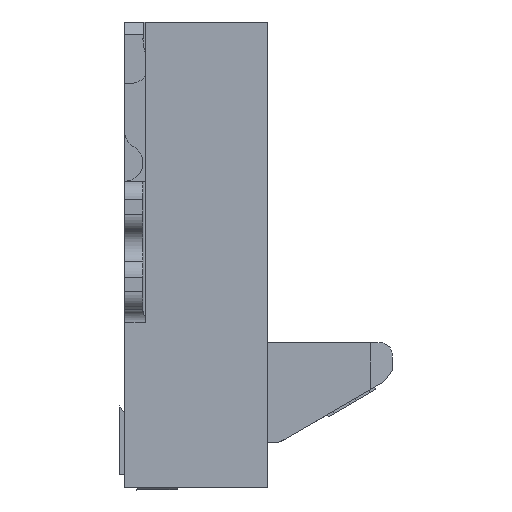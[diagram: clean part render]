
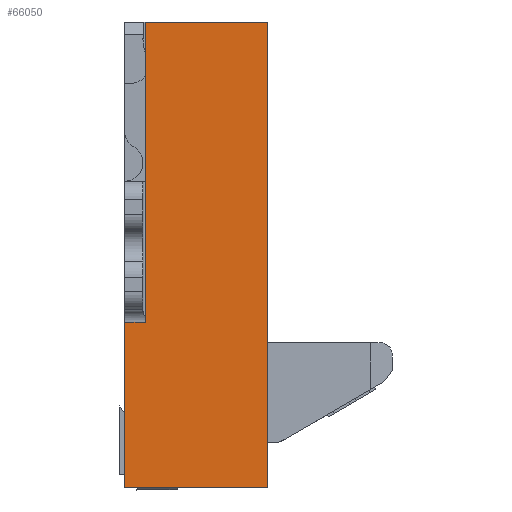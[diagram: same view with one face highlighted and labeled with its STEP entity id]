
A CAD part, left-side view. The second image highlights one B-rep face of the part: STEP entity #66050.
In plain terms, the highlighted planar face has unit normal (-1, 0, 0).
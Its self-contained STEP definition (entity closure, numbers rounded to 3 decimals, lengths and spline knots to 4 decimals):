
#3125 = DIRECTION ( 'NONE',  ( 0., 0., -1. ) ) ;
#3555 = ORIENTED_EDGE ( 'NONE', *, *, #58031, .T. ) ;
#3692 = LINE ( 'NONE', #107807, #34791 ) ;
#6212 = VERTEX_POINT ( 'NONE', #61235 ) ;
#7045 = VECTOR ( 'NONE', #9285, 1000. ) ;
#9285 = DIRECTION ( 'NONE',  ( 0., 0., -1. ) ) ;
#10649 = LINE ( 'NONE', #89723, #103743 ) ;
#13429 = FACE_OUTER_BOUND ( 'NONE', #20247, .T. ) ;
#20247 = EDGE_LOOP ( 'NONE', ( #103835, #20702, #72308, #70410, #3555, #40684 ) ) ;
#20702 = ORIENTED_EDGE ( 'NONE', *, *, #47102, .F. ) ;
#22025 = CARTESIAN_POINT ( 'NONE',  ( 1., 1.31, -1.2938 ) ) ;
#22802 = CARTESIAN_POINT ( 'NONE',  ( 1., 1.48, -5.0938 ) ) ;
#24127 = LINE ( 'NONE', #66770, #62164 ) ;
#26540 = EDGE_CURVE ( 'NONE', #83996, #85559, #55316, .T. ) ;
#29972 = DIRECTION ( 'NONE',  ( 1., 0., 0. ) ) ;
#31121 = EDGE_CURVE ( 'NONE', #6212, #85559, #10649, .T. ) ;
#34791 = VECTOR ( 'NONE', #3125, 1000. ) ;
#36386 = VERTEX_POINT ( 'NONE', #22025 ) ;
#38180 = CARTESIAN_POINT ( 'NONE',  ( 1., 0.31, -1.2938 ) ) ;
#38522 = VERTEX_POINT ( 'NONE', #110874 ) ;
#40229 = EDGE_CURVE ( 'NONE', #97631, #38522, #3692, .T. ) ;
#40684 = ORIENTED_EDGE ( 'NONE', *, *, #31121, .T. ) ;
#40751 = CARTESIAN_POINT ( 'NONE',  ( 1., 0.895, -3.1938 ) ) ;
#41335 = VECTOR ( 'NONE', #72957, 1000. ) ;
#42898 = LINE ( 'NONE', #77561, #7045 ) ;
#47102 = EDGE_CURVE ( 'NONE', #38522, #83996, #24127, .T. ) ;
#47910 = DIRECTION ( 'NONE',  ( 0., 0., 1. ) ) ;
#54196 = CARTESIAN_POINT ( 'NONE',  ( 1., 1.48, -5.0938 ) ) ;
#55316 = LINE ( 'NONE', #54196, #86127 ) ;
#58031 = EDGE_CURVE ( 'NONE', #36386, #6212, #42898, .T. ) ;
#61235 = CARTESIAN_POINT ( 'NONE',  ( 1., 1.31, -3.7438 ) ) ;
#62164 = VECTOR ( 'NONE', #110015, 1000. ) ;
#66050 = ADVANCED_FACE ( 'NONE', ( #13429 ), #74297, .F. ) ;
#66770 = CARTESIAN_POINT ( 'NONE',  ( 1., 0.31, -5.0938 ) ) ;
#70410 = ORIENTED_EDGE ( 'NONE', *, *, #77482, .F. ) ;
#72308 = ORIENTED_EDGE ( 'NONE', *, *, #40229, .F. ) ;
#72957 = DIRECTION ( 'NONE',  ( 0., -1., 0. ) ) ;
#74049 = CARTESIAN_POINT ( 'NONE',  ( 1., 1.31, -1.2938 ) ) ;
#74297 = PLANE ( 'NONE',  #80056 ) ;
#77482 = EDGE_CURVE ( 'NONE', #36386, #97631, #89468, .T. ) ;
#77561 = CARTESIAN_POINT ( 'NONE',  ( 1., 1.31, -1.2938 ) ) ;
#80056 = AXIS2_PLACEMENT_3D ( 'NONE', #40751, #29972, #101018 ) ;
#83996 = VERTEX_POINT ( 'NONE', #22802 ) ;
#85559 = VERTEX_POINT ( 'NONE', #87946 ) ;
#86127 = VECTOR ( 'NONE', #47910, 1000. ) ;
#87946 = CARTESIAN_POINT ( 'NONE',  ( 1., 1.48, -3.7438 ) ) ;
#89468 = LINE ( 'NONE', #74049, #41335 ) ;
#89723 = CARTESIAN_POINT ( 'NONE',  ( 1., 1.31, -3.7438 ) ) ;
#97631 = VERTEX_POINT ( 'NONE', #38180 ) ;
#101018 = DIRECTION ( 'NONE',  ( 0., 1., 0. ) ) ;
#103743 = VECTOR ( 'NONE', #107358, 1000. ) ;
#103835 = ORIENTED_EDGE ( 'NONE', *, *, #26540, .F. ) ;
#107358 = DIRECTION ( 'NONE',  ( 0., 1., 0. ) ) ;
#107807 = CARTESIAN_POINT ( 'NONE',  ( 1., 0.31, -1.2938 ) ) ;
#110015 = DIRECTION ( 'NONE',  ( 0., 1., 0. ) ) ;
#110874 = CARTESIAN_POINT ( 'NONE',  ( 1., 0.31, -5.0938 ) ) ;
